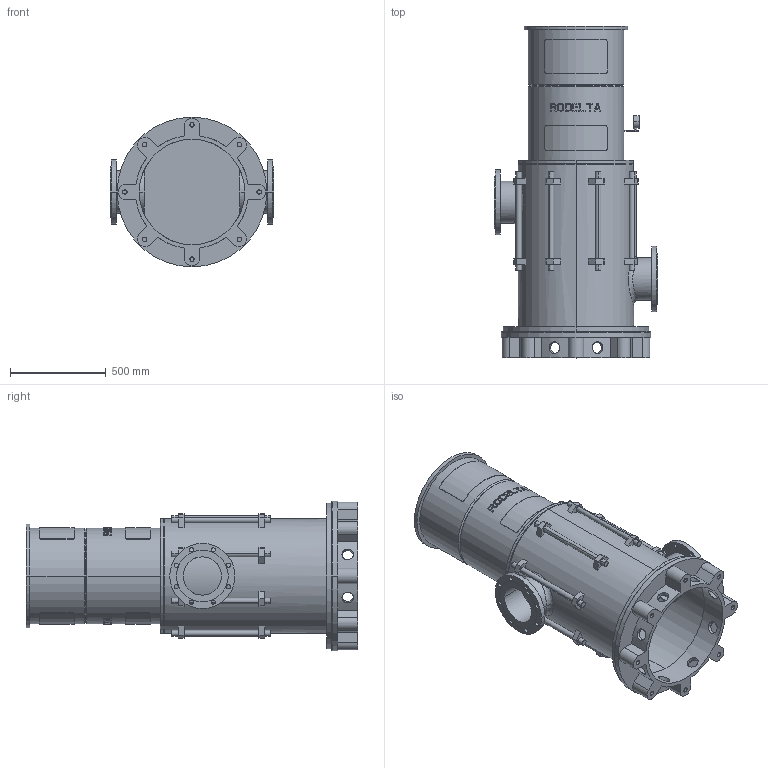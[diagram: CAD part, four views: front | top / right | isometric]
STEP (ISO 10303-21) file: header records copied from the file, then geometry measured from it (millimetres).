
FILE_DESCRIPTION((''),'2;1');
FILE_NAME('LS8_1TR_0GR','2025-10-15T15:18:25',('Lyritlocal'),(''),'CREO PARAMETRIC BY PTC INC, 2022014','CREO PARAMETRIC BY PTC INC, 2022014','');
FILE_SCHEMA(('CONFIG_CONTROL_DESIGN'));
Length unit declared in the file: millimetre
Products named in the file (1): LS8_1TR_0GR
Bounding box: 850 x 1730 x 780 mm (x, y, z)
Volume: 65153764.6 mm3; surface area: 8674256.4 mm2
Topology: 3 solids, 11 shells, 715 faces, 1854 edges, 1230 vertices
Faces by surface type: plane 440, cylinder 259, cone 12, bspline 4
Entity records: 23411 total; most frequent: CARTESIAN_POINT 5978, ORIENTED_EDGE 3676, DIRECTION 3432, EDGE_CURVE 1854, AXIS2_PLACEMENT_3D 1278, VERTEX_POINT 1230, VECTOR 876, LINE 876
